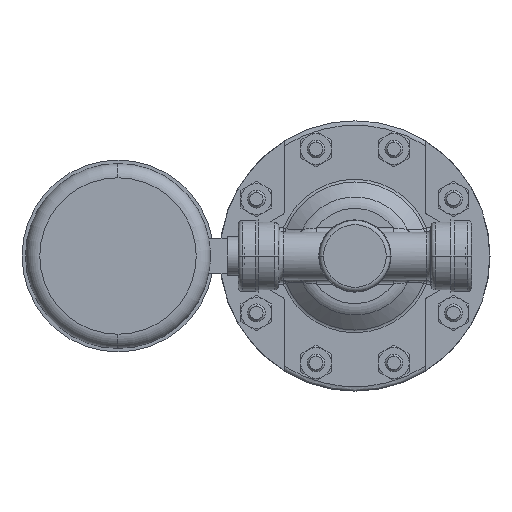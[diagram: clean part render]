
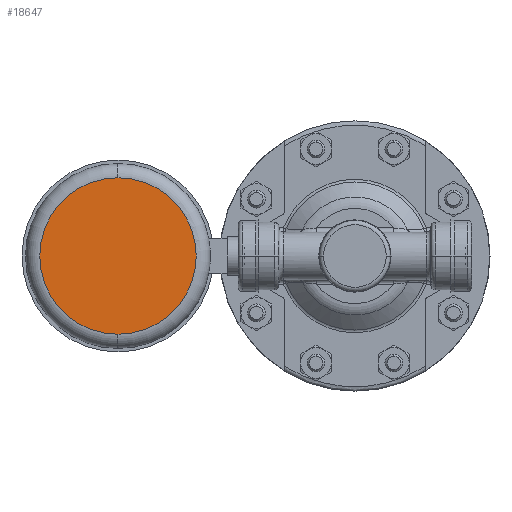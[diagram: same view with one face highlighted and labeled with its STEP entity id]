
A CAD part, front view. The second image highlights one B-rep face of the part: STEP entity #18647.
In plain terms, the highlighted planar face has unit normal (0, -1, 0).
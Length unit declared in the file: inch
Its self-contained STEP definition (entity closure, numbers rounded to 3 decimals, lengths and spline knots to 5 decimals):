
#18373=CARTESIAN_POINT('',(-3.33274,-0.97,0.));
#18374=DIRECTION('',(0.,1.,0.));
#18375=DIRECTION('',(0.,0.,-1.));
#18376=AXIS2_PLACEMENT_3D('',#18373,#18374,#18375);
#18393=CARTESIAN_POINT('',(-3.33274,-0.97,0.));
#18394=DIRECTION('',(0.,1.,0.));
#18395=DIRECTION('',(0.,0.,1.));
#18396=AXIS2_PLACEMENT_3D('',#18393,#18394,#18395);
#18576=CARTESIAN_POINT('',(-3.33274,-0.97,-1.1));
#18577=CARTESIAN_POINT('',(-3.33274,-0.97,1.1));
#18578=VERTEX_POINT('',#18576);
#18579=VERTEX_POINT('',#18577);
#18636=CARTESIAN_POINT('',(-3.33274,-0.97,0.));
#18637=DIRECTION('',(0.,1.,0.));
#18638=DIRECTION('',(0.,0.,-1.));
#18639=AXIS2_PLACEMENT_3D('',#18636,#18637,#18638);
#18640=PLANE('',#18639);
#18642=ORIENTED_EDGE('',*,*,#18641,.T.);
#18644=ORIENTED_EDGE('',*,*,#18643,.T.);
#18645=EDGE_LOOP('',(#18642,#18644));
#18646=FACE_OUTER_BOUND('',#18645,.F.);
#18647=ADVANCED_FACE('',(#18646),#18640,.F.);
#18377=CIRCLE('',#18376,1.1);
#18397=CIRCLE('',#18396,1.1);
#18641=EDGE_CURVE('',#18578,#18579,#18377,.T.);
#18643=EDGE_CURVE('',#18579,#18578,#18397,.T.);
